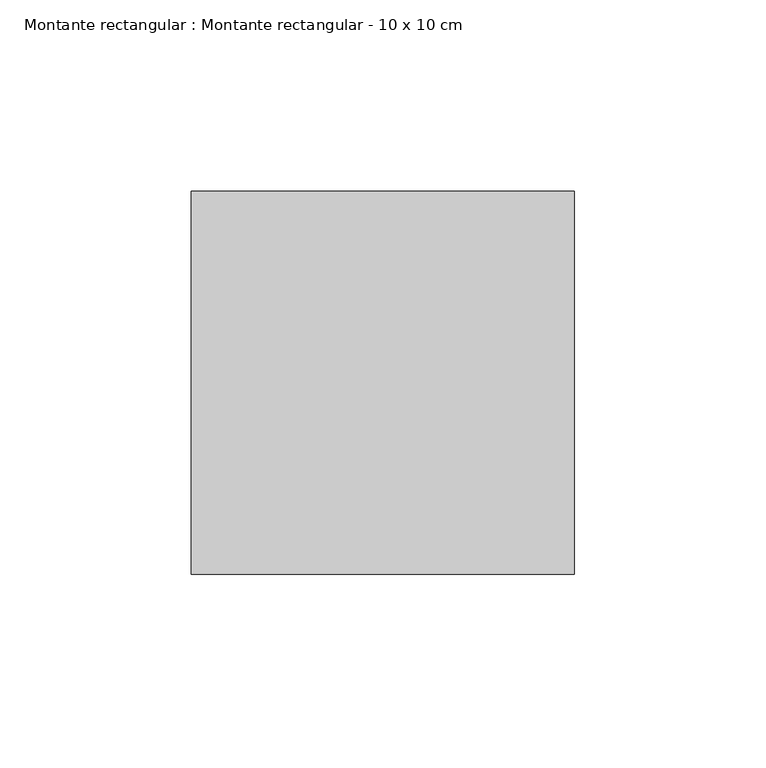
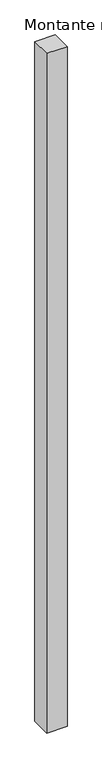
"""IFC4 building model written with IfcOpenShell, lengths in millimetres: member geometry, Montante rectangular : Montante rectangular - 10 x 10 cm."""

from ifc_helpers import new_model, si_unit, frame, origin, place, context, project, spatial, polyline, outline, extrude, source, transform, mapped, element, save


def montante_rectangular_montante_rectangular_10_x_10_cm_002f6bcf(model_context):
    return source(origin(), model_context, "Body", "SweptSolid", [
        extrude(outline(polyline([(0.0, 50.0), (0.0, -50.0), (-100.0, -50.0), (-100.0, 50.0), (0.0, 50.0)])), frame((0.0, 0.0, -3530.0), z_axis=(0.0, 0.0, 1.0), x_axis=(1.0, 0.0, 0.0)), (0.0, 0.0, 1.0), 3530.0),
    ])


if __name__ == "__main__":
    model = new_model("IFC4")
    model_context = context("Model", 3, world=origin())
    ifc_project = project(units=[si_unit("LENGTHUNIT", "METRE", prefix="MILLI")], contexts=[model_context])
    site = spatial("IfcSite", under=ifc_project)
    building = spatial("IfcBuilding", under=site)
    placement = place(None, origin())
    montante_rectangular_montante_rectangular_10_x_10_cm_shape = montante_rectangular_montante_rectangular_10_x_10_cm_002f6bcf(model_context)
    element("IfcMember", 1, ObjectType="Montante rectangular : Montante rectangular - 10 x 10 cm", at=placement, inside=building, context=model_context, shape_type="MappedRepresentation", body=[
        mapped(montante_rectangular_montante_rectangular_10_x_10_cm_shape, transform((0.0, 0.0, 0.0), x_axis=(1.0, 0.0, 0.0), y_axis=(0.0, 1.0, 0.0), z_axis=(0.0, 0.0, 1.0))),
    ])
    save(model, "model.ifc")
